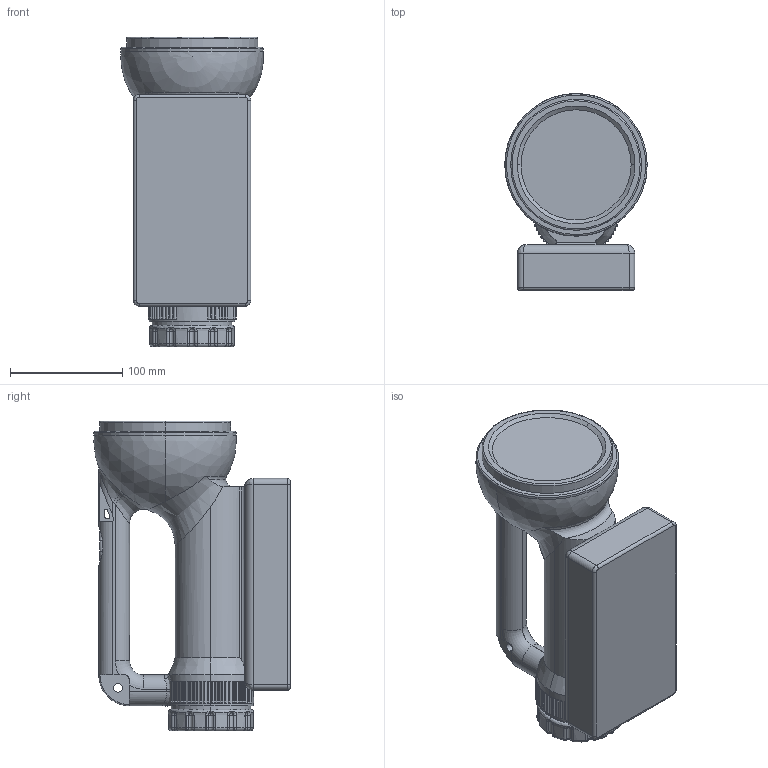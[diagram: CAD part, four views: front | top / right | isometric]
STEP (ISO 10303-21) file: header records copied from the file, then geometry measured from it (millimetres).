
FILE_DESCRIPTION (( 'STEP AP214' ), '1' );
FILE_NAME ('A3100.STEP', '2010-09-18T02:13:39', ( 'Owner' ), ( 'HOME' ), 'SwSTEP 2.0', 'SolidWorks 2008', '' );
FILE_SCHEMA (( 'AUTOMOTIVE_DESIGN' ));
Length unit declared in the file: inch
Products named in the file (4): A3100; Bulb; Lens
Assembly tree (3 placements, depth 2):
  A3100
    A3100
    Lens
    Bulb
Bounding box: 127.19 x 175.45 x 276.23 mm (x, y, z)
Volume: 2242584 mm3; surface area: 215083.1 mm2
Topology: 3 solids, 3 shells, 481 faces, 1144 edges, 696 vertices
Faces by surface type: cylinder 189, plane 133, torus 56, sphere 48, bspline 48, cone 7
Entity records: 18419 total; most frequent: CARTESIAN_POINT 7439, DIRECTION 2415, ORIENTED_EDGE 2214, EDGE_CURVE 1107, AXIS2_PLACEMENT_3D 1056, VERTEX_POINT 679, CIRCLE 617, EDGE_LOOP 534
